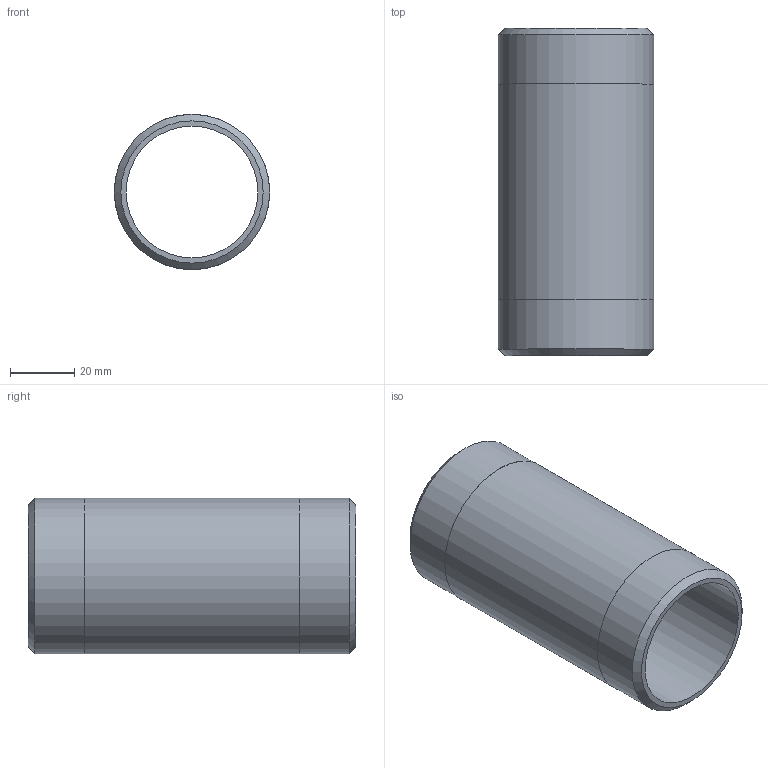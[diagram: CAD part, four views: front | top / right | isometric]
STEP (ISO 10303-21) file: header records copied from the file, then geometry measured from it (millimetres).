
FILE_DESCRIPTION(/* description */ (''),/* implementation_level */ '2;1');
FILE_NAME(/* name */ 'C:/Users/drich/Desktop/BPN1-1_2-4 v1.step',/* time_stamp */ '2020-01-03T14:26:53-06:00',/* author */ (''),/* organization */ (''),/* preprocessor_version */ 'ST-DEVELOPER v18',/* originating_system */ 'Autodesk Translation Framework v8.12.0.6',/* authorisation */ '');
FILE_SCHEMA (('AUTOMOTIVE_DESIGN { 1 0 10303 214 3 1 1 }'));
Length unit declared in the file: inch
Products named in the file (1): BPN1-1_2-4
Bounding box: 48.26 x 101.6 x 48.26 mm (x, y, z)
Volume: 51662.1 mm3; surface area: 29111.4 mm2
Topology: 1 solids, 1 shells, 10 faces, 24 edges, 18 vertices
Faces by surface type: cylinder 4, plane 4, cone 2
Full cylindrical faces by diameter (mm): 40.894 x1, 48.209 x2, 48.26 x1
Entity records: 360 total; most frequent: DIRECTION 64, CARTESIAN_POINT 53, ORIENTED_EDGE 48, AXIS2_PLACEMENT_3D 29, EDGE_CURVE 24, CIRCLE 18, VERTEX_POINT 18, EDGE_LOOP 14
